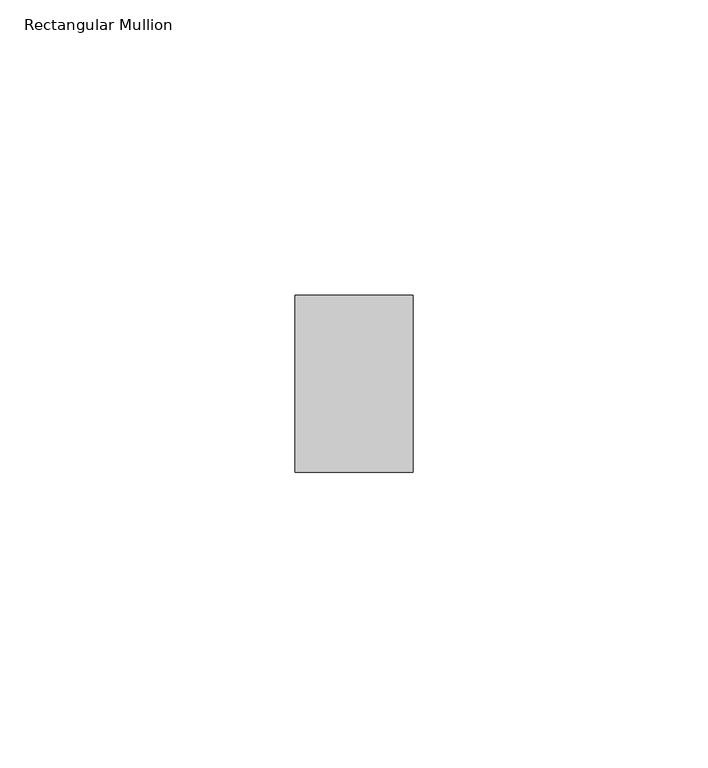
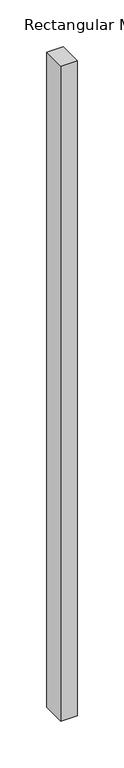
"""IFC4 building model written with IfcOpenShell, lengths in millimetres: member geometry, Rectangular Mullion : ARQ_TV_MULL_30x20mm."""

from ifc_helpers import new_model, si_unit, frame, origin, place, context, project, spatial, polyline, outline, extrude, source, transform, mapped, element, save


def rectangular_mullion_8f61d6bf(model_context):
    return source(origin(), model_context, "Body", "SweptSolid", [
        extrude(outline(polyline([(10.0, 15.0), (10.0, -15.0), (-10.0, -15.0), (-10.0, 15.0), (10.0, 15.0)])), frame((0.0, 0.0, -854.0436542), z_axis=(0.0, 0.0, 1.0), x_axis=(1.0, 0.0, 0.0)), (0.0, 0.0, 1.0), 854.0436542),
    ])


if __name__ == "__main__":
    model = new_model("IFC4")
    model_context = context("Model", 3, world=origin())
    ifc_project = project(units=[si_unit("LENGTHUNIT", "METRE", prefix="MILLI")], contexts=[model_context])
    site = spatial("IfcSite", under=ifc_project)
    building = spatial("IfcBuilding", under=site)
    placement = place(None, origin())
    rectangular_mullion_shape = rectangular_mullion_8f61d6bf(model_context)
    element("IfcMember", 1, ObjectType="Rectangular Mullion : ARQ_TV_MULL_30x20mm", at=placement, inside=building, context=model_context, shape_type="MappedRepresentation", body=[
        mapped(rectangular_mullion_shape, transform((0.0, 0.0, 0.0), x_axis=(1.0, 0.0, 0.0), y_axis=(0.0, 1.0, 0.0), z_axis=(0.0, 0.0, 1.0))),
    ])
    save(model, "model.ifc")
